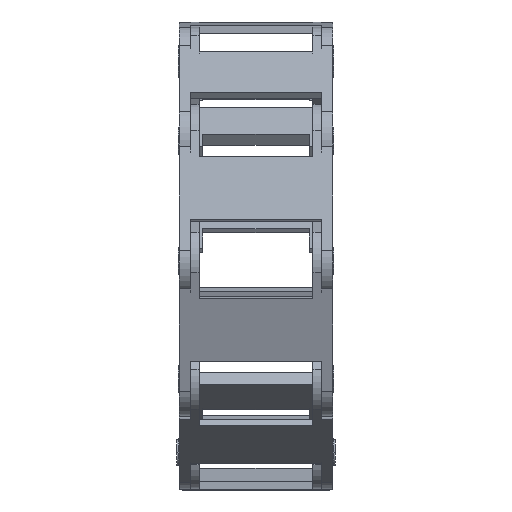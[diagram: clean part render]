
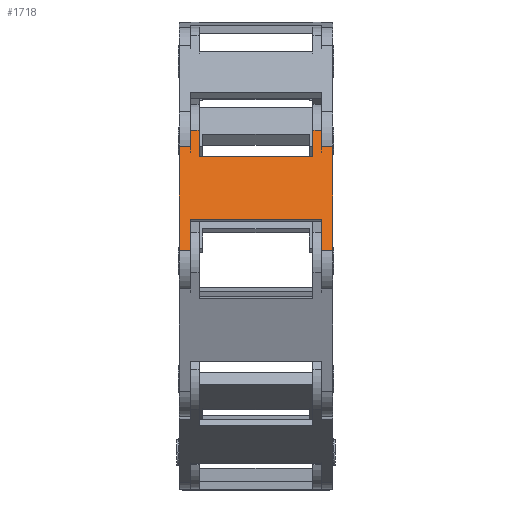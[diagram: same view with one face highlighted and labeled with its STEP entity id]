
A CAD part, top view. The second image highlights one B-rep face of the part: STEP entity #1718.
In plain terms, the highlighted planar face has unit normal (0, 0.284, 0.959) as drawn and (0, 1, 0) by its records, which use the part's own axes.
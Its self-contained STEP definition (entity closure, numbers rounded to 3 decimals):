
#330=DIRECTION('',(0.,0.,-1.));
#331=VECTOR('',#330,14.609);
#332=CARTESIAN_POINT('',(-34.398,92.562,27.014));
#333=LINE('',#332,#331);
#551=DIRECTION('',(0.,0.,1.));
#552=VECTOR('',#551,3.7);
#553=CARTESIAN_POINT('',(-37.096,92.562,25.605));
#554=LINE('',#553,#552);
#674=DIRECTION('',(-1.,0.,0.));
#675=VECTOR('',#674,1.498);
#676=CARTESIAN_POINT('',(-53.656,92.562,12.405));
#677=LINE('',#676,#675);
#688=DIRECTION('',(0.,0.,1.));
#689=VECTOR('',#688,3.7);
#690=CARTESIAN_POINT('',(-52.456,92.562,25.605));
#691=LINE('',#690,#689);
#695=DIRECTION('',(0.,0.,-1.));
#696=VECTOR('',#695,2.291);
#697=CARTESIAN_POINT('',(-53.656,92.562,29.305));
#698=LINE('',#697,#696);
#702=DIRECTION('',(0.,0.,-1.));
#703=VECTOR('',#702,14.609);
#704=CARTESIAN_POINT('',(-55.154,92.562,27.014));
#705=LINE('',#704,#703);
#709=DIRECTION('',(0.,0.,1.));
#710=VECTOR('',#709,4.307);
#711=CARTESIAN_POINT('',(-53.656,92.562,12.405));
#712=LINE('',#711,#710);
#716=DIRECTION('',(1.,0.,0.));
#717=VECTOR('',#716,17.76);
#718=CARTESIAN_POINT('',(-53.656,92.562,16.712));
#719=LINE('',#718,#717);
#723=DIRECTION('',(0.,0.,-1.));
#724=VECTOR('',#723,4.307);
#725=CARTESIAN_POINT('',(-35.896,92.562,16.712));
#726=LINE('',#725,#724);
#730=DIRECTION('',(0.,0.,1.));
#731=VECTOR('',#730,2.291);
#732=CARTESIAN_POINT('',(-35.896,92.562,27.014));
#733=LINE('',#732,#731);
#744=DIRECTION('',(1.,0.,0.));
#745=VECTOR('',#744,1.2);
#746=CARTESIAN_POINT('',(-37.096,92.562,29.305));
#747=LINE('',#746,#745);
#846=DIRECTION('',(1.,0.,0.));
#847=VECTOR('',#846,1.498);
#848=CARTESIAN_POINT('',(-35.896,92.562,27.014));
#849=LINE('',#848,#847);
#897=DIRECTION('',(1.,0.,0.));
#898=VECTOR('',#897,15.36);
#899=CARTESIAN_POINT('',(-52.456,92.562,25.605));
#900=LINE('',#899,#898);
#911=DIRECTION('',(1.,0.,0.));
#912=VECTOR('',#911,1.2);
#913=CARTESIAN_POINT('',(-53.656,92.562,29.305));
#914=LINE('',#913,#912);
#1014=DIRECTION('',(1.,0.,0.));
#1015=VECTOR('',#1014,1.498);
#1016=CARTESIAN_POINT('',(-55.154,92.562,27.014));
#1017=LINE('',#1016,#1015);
#1169=DIRECTION('',(-1.,0.,0.));
#1170=VECTOR('',#1169,1.498);
#1171=CARTESIAN_POINT('',(-34.398,92.562,12.405));
#1172=LINE('',#1171,#1170);
#1298=CARTESIAN_POINT('',(-52.456,92.562,29.305));
#1299=VERTEX_POINT('',#1298);
#1300=CARTESIAN_POINT('',(-52.456,92.562,25.605));
#1301=VERTEX_POINT('',#1300);
#1310=CARTESIAN_POINT('',(-53.656,92.562,12.405));
#1311=VERTEX_POINT('',#1310);
#1312=CARTESIAN_POINT('',(-53.656,92.562,16.712));
#1313=VERTEX_POINT('',#1312);
#1318=CARTESIAN_POINT('',(-55.154,92.562,12.405));
#1319=VERTEX_POINT('',#1318);
#1320=CARTESIAN_POINT('',(-53.656,92.562,29.305));
#1321=VERTEX_POINT('',#1320);
#1322=CARTESIAN_POINT('',(-53.656,92.562,27.014));
#1323=VERTEX_POINT('',#1322);
#1324=CARTESIAN_POINT('',(-55.154,92.562,27.014));
#1325=VERTEX_POINT('',#1324);
#1344=CARTESIAN_POINT('',(-34.398,92.562,27.014));
#1346=VERTEX_POINT('',#1344);
#1349=CARTESIAN_POINT('',(-35.896,92.562,27.014));
#1351=VERTEX_POINT('',#1349);
#1354=CARTESIAN_POINT('',(-34.398,92.562,12.405));
#1355=VERTEX_POINT('',#1354);
#1386=CARTESIAN_POINT('',(-37.096,92.562,25.605));
#1387=VERTEX_POINT('',#1386);
#1388=CARTESIAN_POINT('',(-37.096,92.562,29.305));
#1389=VERTEX_POINT('',#1388);
#1394=CARTESIAN_POINT('',(-35.896,92.562,29.305));
#1395=VERTEX_POINT('',#1394);
#1396=CARTESIAN_POINT('',(-35.896,92.562,16.712));
#1397=VERTEX_POINT('',#1396);
#1398=CARTESIAN_POINT('',(-35.896,92.562,12.405));
#1399=VERTEX_POINT('',#1398);
#1684=CARTESIAN_POINT('',(-42.756,92.562,7.405));
#1685=DIRECTION('',(0.,1.,0.));
#1686=DIRECTION('',(0.,0.,1.));
#1687=AXIS2_PLACEMENT_3D('',#1684,#1685,#1686);
#1688=PLANE('',#1687);
#1690=ORIENTED_EDGE('',*,*,#1689,.F.);
#1691=ORIENTED_EDGE('',*,*,#1581,.F.);
#1693=ORIENTED_EDGE('',*,*,#1692,.F.);
#1694=ORIENTED_EDGE('',*,*,#1545,.T.);
#1696=ORIENTED_EDGE('',*,*,#1695,.F.);
#1698=ORIENTED_EDGE('',*,*,#1697,.T.);
#1700=ORIENTED_EDGE('',*,*,#1699,.F.);
#1702=ORIENTED_EDGE('',*,*,#1701,.T.);
#1703=ORIENTED_EDGE('',*,*,#1676,.F.);
#1704=ORIENTED_EDGE('',*,*,#1659,.T.);
#1706=ORIENTED_EDGE('',*,*,#1705,.T.);
#1708=ORIENTED_EDGE('',*,*,#1707,.T.);
#1710=ORIENTED_EDGE('',*,*,#1709,.F.);
#1711=ORIENTED_EDGE('',*,*,#1409,.F.);
#1713=ORIENTED_EDGE('',*,*,#1712,.F.);
#1715=ORIENTED_EDGE('',*,*,#1714,.T.);
#1716=EDGE_LOOP('',(#1690,#1691,#1693,#1694,#1696,#1698,#1700,#1702,#1703,#1704,
#1706,#1708,#1710,#1711,#1713,#1715));
#1717=FACE_OUTER_BOUND('',#1716,.F.);
#1718=ADVANCED_FACE('',(#1717),#1688,.T.);
#1409=EDGE_CURVE('',#1346,#1355,#333,.T.);
#1545=EDGE_CURVE('',#1301,#1299,#691,.T.);
#1581=EDGE_CURVE('',#1387,#1389,#554,.T.);
#1659=EDGE_CURVE('',#1311,#1313,#712,.T.);
#1676=EDGE_CURVE('',#1311,#1319,#677,.T.);
#1689=EDGE_CURVE('',#1389,#1395,#747,.T.);
#1692=EDGE_CURVE('',#1301,#1387,#900,.T.);
#1695=EDGE_CURVE('',#1321,#1299,#914,.T.);
#1697=EDGE_CURVE('',#1321,#1323,#698,.T.);
#1699=EDGE_CURVE('',#1325,#1323,#1017,.T.);
#1701=EDGE_CURVE('',#1325,#1319,#705,.T.);
#1705=EDGE_CURVE('',#1313,#1397,#719,.T.);
#1707=EDGE_CURVE('',#1397,#1399,#726,.T.);
#1709=EDGE_CURVE('',#1355,#1399,#1172,.T.);
#1712=EDGE_CURVE('',#1351,#1346,#849,.T.);
#1714=EDGE_CURVE('',#1351,#1395,#733,.T.);
